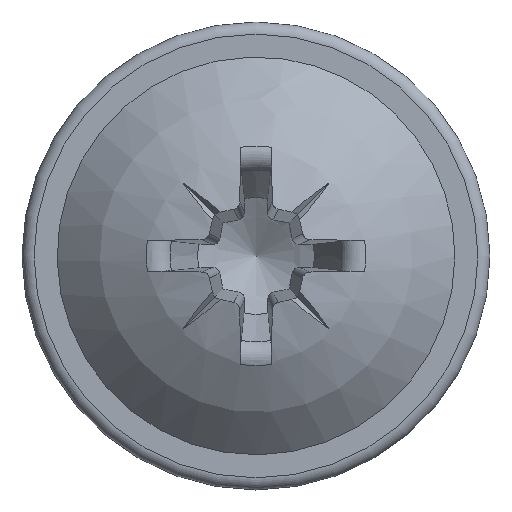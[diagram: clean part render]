
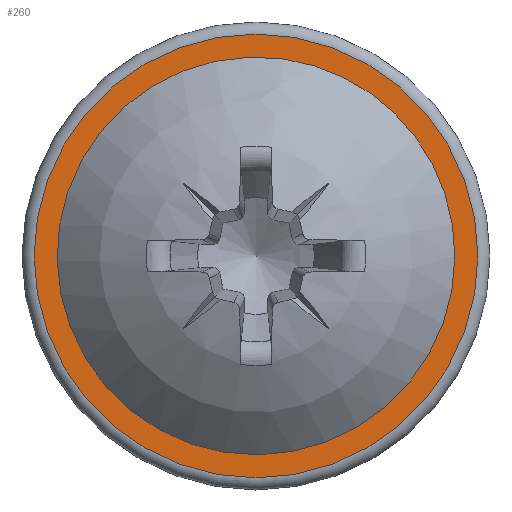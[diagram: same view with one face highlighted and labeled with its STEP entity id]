
A CAD part, top view. The second image highlights one B-rep face of the part: STEP entity #260.
In plain terms, the highlighted planar face has unit normal (0, 0, 1).
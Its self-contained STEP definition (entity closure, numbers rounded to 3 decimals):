
#68=PLANE('',#1460);
#241=FACE_BOUND('',#432,.T.);
#242=FACE_BOUND('',#433,.T.);
#260=ADVANCED_FACE('',(#241,#242),#68,.F.);
#432=EDGE_LOOP('',(#640));
#433=EDGE_LOOP('',(#641));
#515=CIRCLE('',#1416,6.588);
#551=CIRCLE('',#1459,7.35);
#640=ORIENTED_EDGE('',*,*,#1180,.T.);
#641=ORIENTED_EDGE('',*,*,#1120,.F.);
#986=VERTEX_POINT('',#2066);
#1043=VERTEX_POINT('',#2715);
#1120=EDGE_CURVE('',#986,#986,#515,.T.);
#1180=EDGE_CURVE('',#1043,#1043,#551,.T.);
#1416=AXIS2_PLACEMENT_3D('',#2065,#1525,#1526);
#1459=AXIS2_PLACEMENT_3D('',#2714,#1612,#1613);
#1460=AXIS2_PLACEMENT_3D('',#2716,#1614,#1615);
#1525=DIRECTION('',(0.,0.,1.));
#1526=DIRECTION('',(1.,0.,0.));
#1612=DIRECTION('',(0.,0.,1.));
#1613=DIRECTION('',(-1.,0.,0.));
#1614=DIRECTION('',(0.,0.,-1.));
#1615=DIRECTION('',(-1.,0.,0.));
#2065=CARTESIAN_POINT('',(0.,0.,1.6));
#2066=CARTESIAN_POINT('',(6.588,0.,1.6));
#2714=CARTESIAN_POINT('',(0.,0.,1.6));
#2715=CARTESIAN_POINT('',(-7.35,0.,1.6));
#2716=CARTESIAN_POINT('',(0.,7.75,1.6));
